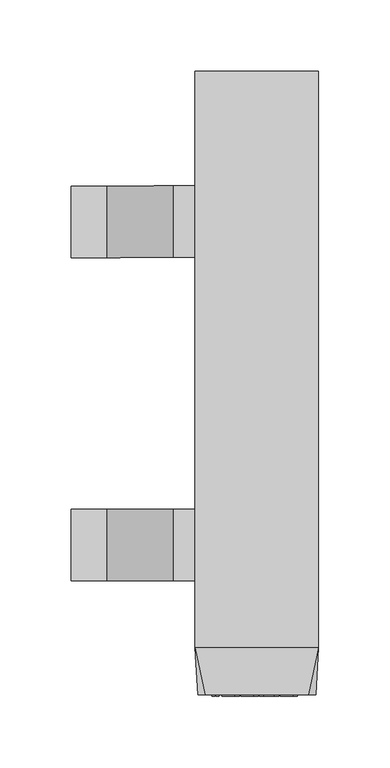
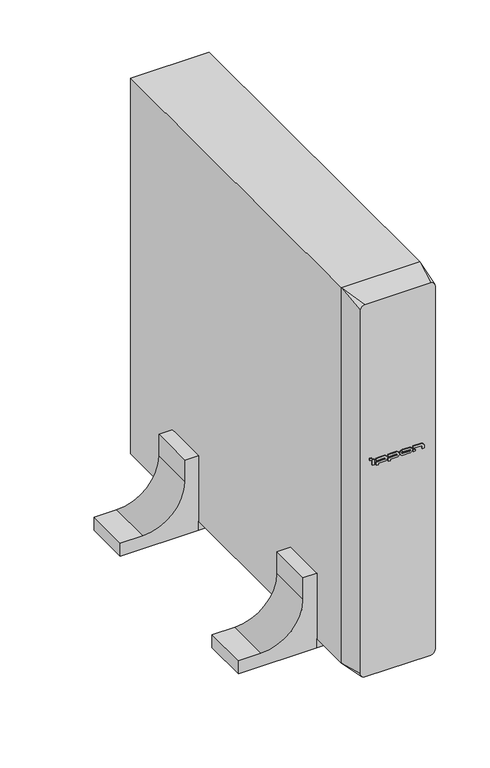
"""IFC4 building model written with IfcOpenShell, lengths in millimetres: proxy geometry, IPPON_ИБП_Smart Winner II_1000_1500_2000_2000E_3000ВА : Smart Winner II 1500 ВА."""

from ifc_helpers import new_model, si_unit, point, frame, frame_2d, origin, origin_with_axes, place, context, project, spatial, polyline, circle_curve, trimmed, segment, composite_curve, outline, extrude, source, transform, mapped, element, save
from ifc_brep_helpers import plane_surface, spline_surface, advanced_brep


def electrical_equipment_f777224a(model_context):
    return source(origin(), model_context, "Body", "SolidModel", [
        extrude(outline(polyline([(-29.1718133, -1.0), (-31.1718133, -1.0), (-31.1718133, 0.0), (-29.1718133, 0.0), (-29.1718133, -1.0)])), frame((0.0, 0.0, 262.7195835), z_axis=(0.0, 0.0, 1.0), x_axis=(1.0, 0.0, 0.0)), (0.0, 0.0, 1.0), 2.3),
        extrude(outline(polyline([(18.6035474, -1.0), (16.6035474, -1.0), (16.6035474, 0.0), (18.6035474, 0.0), (18.6035474, -1.0)])), frame((0.0, 0.0, 256.7195835), z_axis=(0.0, 0.0, 1.0), x_axis=(1.0, 0.0, 0.0)), (0.0, 0.0, 1.0), 2.2268231),
        extrude(outline(polyline([(-26.438565, -1.0), (-28.4833324, -1.0), (-28.4833324, 0.0), (-26.438565, 0.0), (-26.438565, -1.0)])), frame((0.0, 0.0, 256.7195835), z_axis=(0.0, 0.0, 1.0), x_axis=(1.0, 0.0, 0.0)), (0.0, 0.0, 1.0), 6.0),
        extrude(outline(composite_curve([segment(polyline([(260.4571435, -24.2241109), (260.4571435, -14.9923536)]), True, "CONTINUOUS"), segment(trimmed(circle_curve(frame_2d((259.6006642, -14.9923536)), 0.8564793), [point((260.4571435, -14.9923536))], [point((258.7441849, -14.9923536))], True, "CARTESIAN"), True, "CONTINUOUS"), segment(polyline([(258.7441849, -14.9923536), (258.7441849, -24.2241109), (255.2536803, -24.2241109), (255.2536803, -22.2241109), (256.7195835, -22.2241109), (256.7195835, -15.1486036)]), True, "CONTINUOUS"), segment(trimmed(circle_curve(frame_2d((259.7195835, -15.1486036)), 3.0), [point((256.7195835, -15.1486036))], [point((262.7195835, -15.1486036))], False, "CARTESIAN"), True, "CONTINUOUS"), segment(polyline([(262.7195835, -15.1486036), (262.7195835, -24.2241109), (260.4571435, -24.2241109)]), True, "CONTINUOUS")], self_intersect=False)), frame((0.0, -1.0, 0.0), z_axis=(0.0, 1.0, 0.0), x_axis=(0.0, 0.0, 1.0)), (0.0, 0.0, 1.0), 1.0),
        extrude(outline(composite_curve([segment(polyline([(260.4571435, -11.0171091), (260.4571435, -1.7853518)]), True, "CONTINUOUS"), segment(trimmed(circle_curve(frame_2d((259.6006642, -1.7853518)), 0.8564793), [point((260.4571435, -1.7853518))], [point((258.7441849, -1.7853518))], True, "CARTESIAN"), True, "CONTINUOUS"), segment(polyline([(258.7441849, -1.7853518), (258.7441849, -11.0171091), (255.2536803, -11.0171091), (255.2536803, -9.0171091), (256.7195835, -9.0171091), (256.7195835, -1.9416018)]), True, "CONTINUOUS"), segment(trimmed(circle_curve(frame_2d((259.7195835, -1.9416018)), 3.0), [point((256.7195835, -1.9416018))], [point((262.7195835, -1.9416018))], False, "CARTESIAN"), True, "CONTINUOUS"), segment(polyline([(262.7195835, -1.9416018), (262.7195835, -11.0171091), (260.4571435, -11.0171091)]), True, "CONTINUOUS")], self_intersect=False)), frame((0.0, -1.0, 0.0), z_axis=(0.0, 1.0, 0.0), x_axis=(0.0, 0.0, 1.0)), (0.0, 0.0, 1.0), 1.0),
        extrude(outline(composite_curve([segment(trimmed(circle_curve(frame_2d((259.7195835, 12.558657)), 3.0), [point((256.7195835, 12.558657))], [point((262.7195835, 12.558657))], False, "CARTESIAN"), True, "CONTINUOUS"), segment(polyline([(262.7195835, 12.558657), (262.7195835, 4.958657)]), True, "CONTINUOUS"), segment(trimmed(circle_curve(frame_2d((259.7195835, 4.958657)), 3.0), [point((262.7195835, 4.958657))], [point((256.7195835, 4.958657))], False, "CARTESIAN"), True, "CONTINUOUS"), segment(polyline([(256.7195835, 4.958657), (256.7195835, 12.558657)]), True, "CONTINUOUS")], self_intersect=False), holes=[composite_curve([segment(polyline([(258.7441849, 12.714907), (258.7441849, 4.802407)]), True, "CONTINUOUS"), segment(trimmed(circle_curve(frame_2d((259.6006642, 4.802407)), 0.8564793), [point((258.7441849, 4.802407))], [point((260.4571435, 4.802407))], True, "CARTESIAN"), True, "CONTINUOUS"), segment(polyline([(260.4571435, 4.802407), (260.4571435, 12.714907)]), True, "CONTINUOUS"), segment(trimmed(circle_curve(frame_2d((259.6006642, 12.714907)), 0.8564793), [point((260.4571435, 12.714907))], [point((258.7441849, 12.714907))], True, "CARTESIAN"), True, "CONTINUOUS")], self_intersect=False)]), frame((0.0, -1.0, 0.0), z_axis=(0.0, 1.0, 0.0), x_axis=(0.0, 0.0, 1.0)), (0.0, 0.0, 1.0), 1.0),
        extrude(outline(composite_curve([segment(polyline([(260.4571435, 16.6035474), (260.4571435, 25.8353046)]), True, "CONTINUOUS"), segment(trimmed(circle_curve(frame_2d((259.6006642, 25.8353046)), 0.8564793), [point((260.4571435, 25.8353046))], [point((259.6006642, 26.6917839))], True, "CARTESIAN"), True, "CONTINUOUS"), segment(polyline([(259.6006642, 26.6917839), (256.7195835, 26.6917839), (256.7195835, 28.6317921), (260.25, 28.6317921)]), True, "CONTINUOUS"), segment(trimmed(circle_curve(frame_2d((259.7195835, 25.6790546)), 3.0), [point((260.25, 28.6317921))], [point((262.7195835, 25.6790546))], False, "CARTESIAN"), True, "CONTINUOUS"), segment(polyline([(262.7195835, 25.6790546), (262.7195835, 16.6035474), (260.4571435, 16.6035474)]), True, "CONTINUOUS")], self_intersect=False)), frame((0.0, -1.0, 0.0), z_axis=(0.0, 1.0, 0.0), x_axis=(0.0, 0.0, 1.0)), (0.0, 0.0, 1.0), 1.0),
        extrude(outline(polyline([(-43.25, 356.0), (43.25, 356.0), (43.25, 306.0), (-43.25, 306.0), (-43.25, 356.0)])), origin_with_axes(), (0.0, 0.0, 1.0), 10.0),
        extrude(outline(polyline([(43.25, 80.0), (-43.25, 80.0), (-43.25, 130.0), (43.25, 130.0), (43.25, 80.0)])), origin_with_axes(), (0.0, 0.0, 1.0), 10.0),
        extrude(outline(composite_curve([segment(polyline([(0.0, -43.25), (86.5, -43.25), (86.5, -58.25), (61.5, -58.25)]), True, "CONTINUOUS"), segment(trimmed(circle_curve(frame_2d((61.5, -104.75)), 46.5), [point((61.5, -58.25))], [point((15.0, -104.75))], True, "CARTESIAN"), True, "CONTINUOUS"), segment(polyline([(15.0, -104.75), (15.0, -129.75), (0.0, -129.75), (0.0, -43.25)]), True, "CONTINUOUS")], self_intersect=False)), frame((0.0, 306.0, 0.0), z_axis=(0.0, 1.0, 0.0), x_axis=(0.0, 0.0, 1.0)), (0.0, 0.0, 1.0), 50.0),
        extrude(outline(composite_curve([segment(polyline([(0.0, -43.25), (86.5, -43.25), (86.5, -58.25), (61.5, -58.25)]), True, "CONTINUOUS"), segment(trimmed(circle_curve(frame_2d((61.5, -104.75)), 46.5), [point((61.5, -58.25))], [point((15.0, -104.75))], True, "CARTESIAN"), True, "CONTINUOUS"), segment(polyline([(15.0, -104.75), (15.0, -129.75), (0.0, -129.75), (0.0, -43.25)]), True, "CONTINUOUS")], self_intersect=False)), frame((0.0, 80.0, 0.0), z_axis=(0.0, 1.0, 0.0), x_axis=(0.0, 0.0, 1.0)), (0.0, 0.0, 1.0), 50.0),
        advanced_brep(
        [(36.25, 0.0, 12.0), (41.25, 0.0, 17.0), (41.25, 0.0, 441.0), (36.25, 0.0, 446.0), (-36.25, 0.0, 446.0), (-41.25, 0.0, 441.0), (-41.25, 0.0, 17.0), (-36.25, 0.0, 12.0), (43.25, 33.0, 10.0), (-43.25, 33.0, 10.0), (-43.25, 33.0, 448.0), (43.25, 33.0, 448.0)],
        [
            (0, 1, circle_curve(frame((36.25, 0.0, 17.0), z_axis=(0.0, -1.0, 0.0), x_axis=(-1.0, 0.0, 0.0)), 5.0)),
            (1, 2),
            (2, 3, circle_curve(frame((36.25, 0.0, 441.0), z_axis=(0.0, -1.0, 0.0), x_axis=(-1.0, 0.0, 0.0)), 5.0)),
            (3, 4),
            (4, 5, circle_curve(frame((-36.25, 0.0, 441.0), z_axis=(0.0, -1.0, 0.0), x_axis=(-1.0, 0.0, 0.0)), 5.0)),
            (5, 6),
            (6, 7, circle_curve(frame((-36.25, 0.0, 17.0), z_axis=(0.0, -1.0, 0.0), x_axis=(-1.0, 0.0, 0.0)), 5.0)),
            (7, 0),
            (8, 9),
            (9, 10),
            (10, 11),
            (11, 8),
            (0, 8),
            (8, 1),
            (7, 9),
            (6, 9),
            (5, 10),
            (4, 10),
            (3, 11),
            (2, 11),
        ],
        [
            plane_surface(frame((0.0, 0.0, 229.0), z_axis=(0.0, -1.0, 0.0), x_axis=(1.0, 0.0, 0.0))),
            plane_surface(frame((0.0, 33.0, 229.0), z_axis=(0.0, 1.0, 0.0), x_axis=(1.0, 0.0, 0.0))),
            spline_surface(2, 1, [[(43.25, 33.0, 10.0), (36.25, 0.0, 12.0)], [(43.25, 33.0, 10.0), (41.25, 0.0, 12.0)], [(43.25, 33.0, 10.0), (41.25, 0.0, 17.0)]], [3, 3], [2, 2], [0.0, 1.0], [0.0, 1.0], weights=[[1.0, 1.0], [0.7071067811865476, 0.7071067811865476], [1.0, 1.0]]),
            plane_surface(frame((0.0, 33.0, 10.0), z_axis=(0.0, -0.060495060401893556, -0.9981684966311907), x_axis=(1.0, 0.0, 0.0))),
            spline_surface(2, 1, [[(-43.25, 33.0, 10.0), (-41.25, 0.0, 17.0)], [(-43.25, 33.0, 10.0), (-41.25, 0.0, 12.0)], [(-43.25, 33.0, 10.0), (-36.25, 0.0, 12.0)]], [3, 3], [2, 2], [0.0, 1.0], [0.0, 1.0], weights=[[1.0, 1.0], [0.7071067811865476, 0.7071067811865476], [1.0, 1.0]]),
            plane_surface(frame((-43.25, 33.0, 229.0), z_axis=(-0.998168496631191, -0.06049506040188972, 0.0), x_axis=(0.0, 0.0, -1.0))),
            spline_surface(2, 1, [[(-43.25, 33.0, 448.0), (-36.25, 0.0, 446.0)], [(-43.25, 33.0, 448.0), (-41.25, 0.0, 446.0)], [(-43.25, 33.0, 448.0), (-41.25, 0.0, 441.0)]], [3, 3], [2, 2], [0.0, 1.0], [0.0, 1.0], weights=[[1.0, 1.0], [0.7071067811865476, 0.7071067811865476], [1.0, 1.0]]),
            plane_surface(frame((0.0, 33.0, 448.0), z_axis=(0.0, -0.06049506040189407, 0.9981684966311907), x_axis=(-1.0, 0.0, 0.0))),
            spline_surface(2, 1, [[(43.25, 33.0, 448.0), (41.25, 0.0, 441.0)], [(43.25, 33.0, 448.0), (41.25, 0.0, 446.0)], [(43.25, 33.0, 448.0), (36.25, 0.0, 446.0)]], [3, 3], [2, 2], [0.0, 1.0], [0.0, 1.0], weights=[[1.0, 1.0], [0.7071067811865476, 0.7071067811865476], [1.0, 1.0]]),
            plane_surface(frame((43.25, 33.0, 229.0), z_axis=(0.9981684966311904, -0.06049506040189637, 0.0), x_axis=(0.0, 0.0, 1.0))),
        ],
        [
            (0, [[1, 2, 3, 4, 5, 6, 7, 8]]),
            (1, [[9, 10, 11, 12]]),
            (2, [[-1, 13, 14]]),
            (3, [[-9, -13, -8, 15]]),
            (4, [[-7, 16, -15]]),
            (5, [[-10, -16, -6, 17]]),
            (6, [[-5, 18, -17]]),
            (7, [[-11, -18, -4, 19]]),
            (8, [[-3, 20, -19]]),
            (9, [[-12, -20, -2, -14]]),
        ],
    ),
        extrude(outline(polyline([(43.25, 33.0), (-43.25, 33.0), (-43.25, 436.0), (43.25, 436.0), (43.25, 33.0)])), frame((0.0, 0.0, 10.0), z_axis=(0.0, 0.0, 1.0), x_axis=(1.0, 0.0, 0.0)), (0.0, 0.0, 1.0), 438.0),
    ])


if __name__ == "__main__":
    model = new_model("IFC4")
    model_context = context("Model", 3, world=origin())
    ifc_project = project(units=[si_unit("LENGTHUNIT", "METRE", prefix="MILLI")], contexts=[model_context])
    site = spatial("IfcSite", under=ifc_project)
    building = spatial("IfcBuilding", under=site)
    placement = place(None, origin())
    electrical_equipment_shape = electrical_equipment_f777224a(model_context)
    element("IfcBuildingElementProxy", 1, Name="IPPON_ИБП_Smart Winner II_1000_1500_2000_2000E_3000ВА : Smart Winner II 1500 ВА", ObjectType="IPPON_ИБП_Smart Winner II_1000_1500_2000_2000E_3000ВА : Smart Winner II 1500 ВА", at=placement, inside=building, context=model_context, shape_type="MappedRepresentation", body=[
        mapped(electrical_equipment_shape, transform((0.0, 0.0, 0.0), x_axis=(1.0, 0.0, 0.0), y_axis=(0.0, 1.0, 0.0), z_axis=(0.0, 0.0, 1.0))),
    ])
    save(model, "model.ifc")
